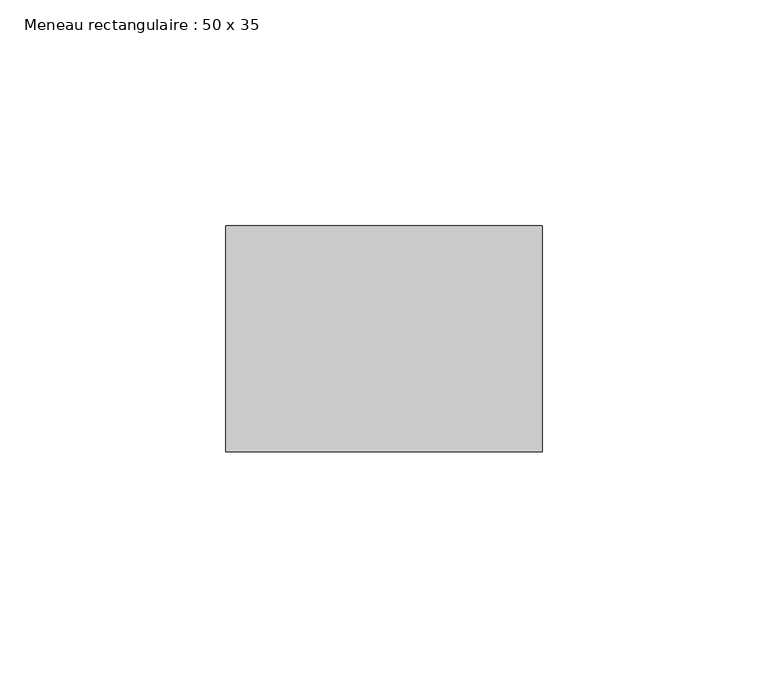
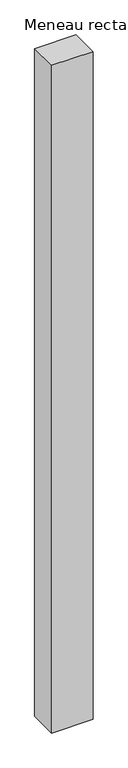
"""IFC4 building model written with IfcOpenShell, lengths in millimetres: member geometry, Meneau rectangulaire : 50 x 35."""

from ifc_helpers import new_model, si_unit, frame, origin, place, context, project, spatial, polyline, outline, extrude, source, transform, mapped, element, save


def meneau_rectangulaire_50_x_35_b977e9e1(model_context):
    return source(origin(), model_context, "Body", "SweptSolid", [
        extrude(outline(polyline([(0.0, 0.0), (0.0, -50.0), (-70.0, -50.0), (-70.0, 0.0), (0.0, 0.0)])), frame((0.0, 0.0, -1197.3515477), z_axis=(0.0, 0.0, 1.0), x_axis=(1.0, 0.0, 0.0)), (0.0, 0.0, 1.0), 1197.3515477),
    ])


if __name__ == "__main__":
    model = new_model("IFC4")
    model_context = context("Model", 3, world=origin())
    ifc_project = project(units=[si_unit("LENGTHUNIT", "METRE", prefix="MILLI")], contexts=[model_context])
    site = spatial("IfcSite", under=ifc_project)
    building = spatial("IfcBuilding", under=site)
    placement = place(None, origin())
    meneau_rectangulaire_50_x_35_shape = meneau_rectangulaire_50_x_35_b977e9e1(model_context)
    element("IfcMember", 1, ObjectType="Meneau rectangulaire : 50 x 35", at=placement, inside=building, context=model_context, shape_type="MappedRepresentation", body=[
        mapped(meneau_rectangulaire_50_x_35_shape, transform((0.0, 0.0, 0.0), x_axis=(1.0, 0.0, 0.0), y_axis=(0.0, 1.0, 0.0), z_axis=(0.0, 0.0, 1.0))),
    ])
    save(model, "model.ifc")
